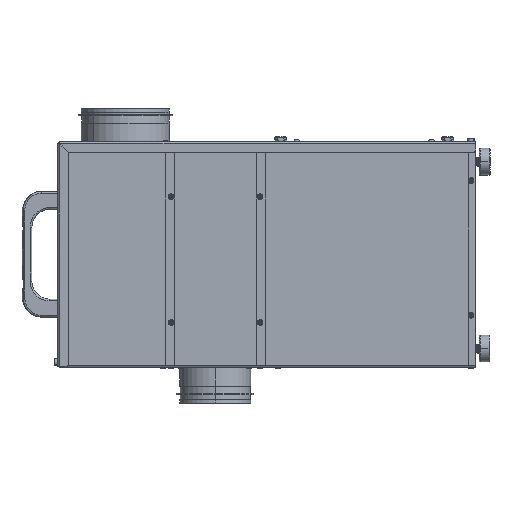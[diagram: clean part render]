
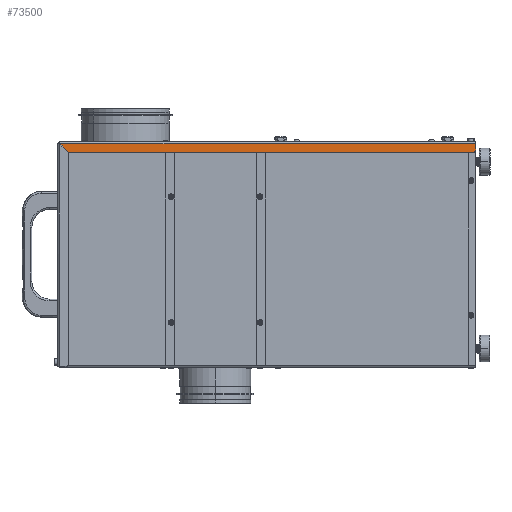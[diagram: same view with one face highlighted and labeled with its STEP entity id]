
A CAD part, left-side view. The second image highlights one B-rep face of the part: STEP entity #73500.
In plain terms, the highlighted planar face has unit normal (-1, 0, 0).
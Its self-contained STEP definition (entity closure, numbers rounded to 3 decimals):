
#3896 = CARTESIAN_POINT ( 'NONE',  ( -107.444, -8.316, 122.687 ) ) ;
#4585 = VECTOR ( 'NONE', #42873, 1000. ) ;
#6438 = CARTESIAN_POINT ( 'NONE',  ( -107.444, -8.316, 114.687 ) ) ;
#6795 = DIRECTION ( 'NONE',  ( 0., 0.707, 0.707 ) ) ;
#8191 = VERTEX_POINT ( 'NONE', #8376 ) ;
#8376 = CARTESIAN_POINT ( 'NONE',  ( -107.444, 454.614, 121.687 ) ) ;
#9035 = CARTESIAN_POINT ( 'NONE',  ( -107.444, -8.316, 111.687 ) ) ;
#9166 = EDGE_CURVE ( 'NONE', #61620, #35102, #96560, .T. ) ;
#12575 = CARTESIAN_POINT ( 'NONE',  ( -107.444, -8.316, 121.687 ) ) ;
#18541 = DIRECTION ( 'NONE',  ( 0., 0., -1. ) ) ;
#19087 = CIRCLE ( 'NONE', #86344, 3. ) ;
#22460 = LINE ( 'NONE', #3896, #4585 ) ;
#25550 = DIRECTION ( 'NONE',  ( 1., 0., 0. ) ) ;
#26208 = ORIENTED_EDGE ( 'NONE', *, *, #110604, .F. ) ;
#27592 = DIRECTION ( 'NONE',  ( 0., 1., 0. ) ) ;
#35102 = VERTEX_POINT ( 'NONE', #104801 ) ;
#42479 = ORIENTED_EDGE ( 'NONE', *, *, #122692, .F. ) ;
#42873 = DIRECTION ( 'NONE',  ( 0., 0., -1. ) ) ;
#44516 = ORIENTED_EDGE ( 'NONE', *, *, #50834, .T. ) ;
#44520 = LINE ( 'NONE', #94950, #47190 ) ;
#47190 = VECTOR ( 'NONE', #6795, 1000. ) ;
#49638 = DIRECTION ( 'NONE',  ( 0., -1., 0. ) ) ;
#50834 = EDGE_CURVE ( 'NONE', #61620, #115444, #19087, .T. ) ;
#51508 = CARTESIAN_POINT ( 'NONE',  ( -107.444, -8.316, 121.687 ) ) ;
#61620 = VERTEX_POINT ( 'NONE', #70561 ) ;
#63863 = PLANE ( 'NONE',  #124380 ) ;
#66368 = DIRECTION ( 'NONE',  ( 0., 0., -1. ) ) ;
#68057 = VECTOR ( 'NONE', #27592, 1000. ) ;
#70561 = CARTESIAN_POINT ( 'NONE',  ( -107.444, -5.316, 111.687 ) ) ;
#73500 = ADVANCED_FACE ( 'NONE', ( #74085 ), #63863, .F. ) ;
#74085 = FACE_OUTER_BOUND ( 'NONE', #76111, .T. ) ;
#76111 = EDGE_LOOP ( 'NONE', ( #114138, #44516, #42479, #95678, #26208 ) ) ;
#85295 = EDGE_CURVE ( 'NONE', #8191, #97512, #100079, .T. ) ;
#86344 = AXIS2_PLACEMENT_3D ( 'NONE', #97113, #97734, #18541 ) ;
#94950 = CARTESIAN_POINT ( 'NONE',  ( -107.444, 127.196, -205.73 ) ) ;
#95678 = ORIENTED_EDGE ( 'NONE', *, *, #85295, .F. ) ;
#96560 = LINE ( 'NONE', #9035, #68057 ) ;
#97113 = CARTESIAN_POINT ( 'NONE',  ( -107.444, -5.316, 114.687 ) ) ;
#97512 = VERTEX_POINT ( 'NONE', #51508 ) ;
#97734 = DIRECTION ( 'NONE',  ( -1., 0., 0. ) ) ;
#100079 = LINE ( 'NONE', #12575, #126249 ) ;
#104801 = CARTESIAN_POINT ( 'NONE',  ( -107.444, 444.614, 111.687 ) ) ;
#110604 = EDGE_CURVE ( 'NONE', #35102, #8191, #44520, .T. ) ;
#114138 = ORIENTED_EDGE ( 'NONE', *, *, #9166, .F. ) ;
#114945 = CARTESIAN_POINT ( 'NONE',  ( -107.444, -8.316, 111.687 ) ) ;
#115444 = VERTEX_POINT ( 'NONE', #6438 ) ;
#122692 = EDGE_CURVE ( 'NONE', #97512, #115444, #22460, .T. ) ;
#124380 = AXIS2_PLACEMENT_3D ( 'NONE', #114945, #25550, #66368 ) ;
#126249 = VECTOR ( 'NONE', #49638, 1000. ) ;
